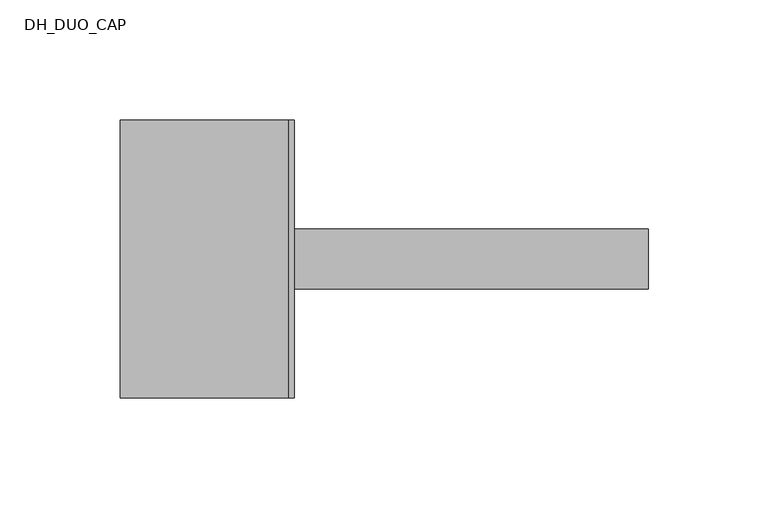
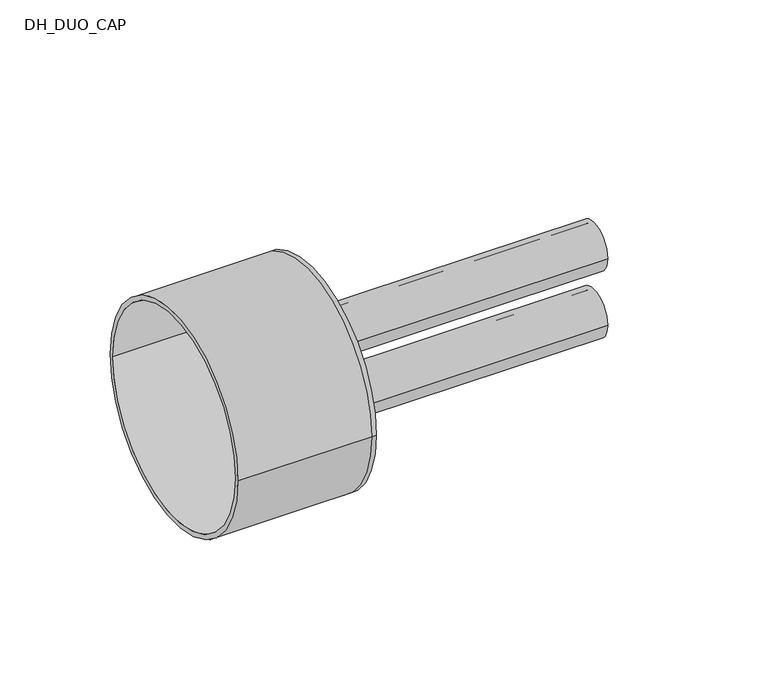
"""IFC4 building model written with IfcOpenShell, lengths in millimetres: pipe fitting geometry, DH_DUO_CAP : RAUTHERMEX DUO + 11 Heating - Solid Cap."""

from ifc_helpers import new_model, si_unit, point, frame, frame_2d, origin, place, context, project, spatial, polyline, circle_curve, trimmed, segment, composite_curve, outline, extrude, source, transform, mapped, element, save
from ifc_brep_helpers import plane_surface, cylinder_surface, revolved_surface, advanced_brep


def dh_duo_cap_ca8780d0(model_context):
    return source(origin(), model_context, "Body", "SolidModel", [
        extrude(outline(composite_curve([segment(trimmed(circle_curve(frame_2d((0.0, -18.5)), 12.5), [point((-12.5, -18.5))], [point((12.5, -18.5))], False, "CARTESIAN"), True, "CONTINUOUS"), segment(trimmed(circle_curve(frame_2d((0.0, -18.5)), 12.5), [point((12.5, -18.5))], [point((-12.5, -18.5))], False, "CARTESIAN"), True, "CONTINUOUS")], self_intersect=False), holes=[composite_curve([segment(trimmed(circle_curve(frame_2d((0.0, -18.5)), 10.2), [point((-10.2, -18.5))], [point((10.2, -18.5))], True, "CARTESIAN"), True, "CONTINUOUS"), segment(trimmed(circle_curve(frame_2d((0.0, -18.5)), 10.2), [point((10.2, -18.5))], [point((-10.2, -18.5))], True, "CARTESIAN"), True, "CONTINUOUS")], self_intersect=False)]), frame((0.0, 0.0, 0.0), z_axis=(1.0, 0.0, 0.0), x_axis=(0.0, 1.0, 0.0)), (0.0, 0.0, 1.0), 150.0),
        extrude(outline(composite_curve([segment(trimmed(circle_curve(frame_2d((0.0, 18.5)), 12.5), [point((-12.5, 18.5))], [point((12.5, 18.5))], False, "CARTESIAN"), True, "CONTINUOUS"), segment(trimmed(circle_curve(frame_2d((0.0, 18.5)), 12.5), [point((12.5, 18.5))], [point((-12.5, 18.5))], False, "CARTESIAN"), True, "CONTINUOUS")], self_intersect=False), holes=[composite_curve([segment(trimmed(circle_curve(frame_2d((0.0, 18.5)), 10.2), [point((-10.2, 18.5))], [point((10.2, 18.5))], True, "CARTESIAN"), True, "CONTINUOUS"), segment(trimmed(circle_curve(frame_2d((0.0, 18.5)), 10.2), [point((10.2, 18.5))], [point((-10.2, 18.5))], True, "CARTESIAN"), True, "CONTINUOUS")], self_intersect=False)]), frame((0.0, 0.0, 0.0), z_axis=(1.0, 0.0, 0.0), x_axis=(0.0, 1.0, 0.0)), (0.0, 0.0, 1.0), 150.0),
        advanced_brep(
        [(-70.0, -58.0, 0.0), (-70.0, 58.0, 0.0), (-70.0, -55.5, 0.0), (-70.0, 55.5, 0.0), (0.0, -55.5, 0.0), (0.0, 55.5, 0.0), (0.0, -58.0, 0.0), (0.0, 58.0, 0.0), (0.0, 12.5, 18.5), (0.0, -12.5, 18.5), (0.0, 12.5, -18.5), (0.0, -12.5, -18.5), (2.5, -58.0, 0.0), (2.5, 58.0, 0.0), (2.5, -12.5, 18.5), (2.5, 12.5, 18.5), (2.5, -12.5, -18.5), (2.5, 12.5, -18.5)],
        [
            (0, 1, circle_curve(frame((-70.0, 0.0, 0.0), z_axis=(-1.0, 0.0, 0.0), x_axis=(0.0, 1.0, 0.0)), 58.0)),
            (1, 0, circle_curve(frame((-70.0, 0.0, 0.0), z_axis=(-1.0, 0.0, 0.0), x_axis=(0.0, 1.0, 0.0)), 58.0)),
            (2, 3, circle_curve(frame((-70.0, 0.0, 0.0), z_axis=(1.0, 0.0, 0.0), x_axis=(0.0, 1.0, 0.0)), 55.5)),
            (3, 2, circle_curve(frame((-70.0, 0.0, 0.0), z_axis=(1.0, 0.0, 0.0), x_axis=(0.0, 1.0, 0.0)), 55.5)),
            (2, 4),
            (4, 5, circle_curve(frame((0.0, 0.0, 0.0), z_axis=(1.0, 0.0, 0.0), x_axis=(0.0, 1.0, 0.0)), 55.5)),
            (5, 3),
            (5, 4, circle_curve(frame((0.0, 0.0, 0.0), z_axis=(1.0, 0.0, 0.0), x_axis=(0.0, 1.0, 0.0)), 55.5)),
            (0, 6),
            (6, 7, circle_curve(frame((0.0, 0.0, 0.0), z_axis=(-1.0, 0.0, 0.0), x_axis=(0.0, 1.0, 0.0)), 58.0)),
            (7, 1),
            (7, 6, circle_curve(frame((0.0, 0.0, 0.0), z_axis=(-1.0, 0.0, 0.0), x_axis=(0.0, 1.0, 0.0)), 58.0)),
            (8, 9, circle_curve(frame((0.0, 0.0, 18.5), z_axis=(1.0, 0.0, 0.0), x_axis=(0.0, 1.0, 0.0)), 12.5)),
            (9, 8, circle_curve(frame((0.0, 0.0, 18.5), z_axis=(1.0, 0.0, 0.0), x_axis=(0.0, 1.0, 0.0)), 12.5)),
            (10, 11, circle_curve(frame((0.0, 0.0, -18.5), z_axis=(1.0, 0.0, 0.0), x_axis=(0.0, 1.0, 0.0)), 12.5)),
            (11, 10, circle_curve(frame((0.0, 0.0, -18.5), z_axis=(1.0, 0.0, 0.0), x_axis=(0.0, 1.0, 0.0)), 12.5)),
            (12, 13, circle_curve(frame((2.5, 0.0, 0.0), z_axis=(1.0, 0.0, 0.0), x_axis=(0.0, 1.0, 0.0)), 58.0)),
            (13, 12, circle_curve(frame((2.5, 0.0, 0.0), z_axis=(1.0, 0.0, 0.0), x_axis=(0.0, 1.0, 0.0)), 58.0)),
            (14, 15, circle_curve(frame((2.5, 0.0, 18.5), z_axis=(-1.0, 0.0, 0.0), x_axis=(0.0, 1.0, 0.0)), 12.5)),
            (15, 14, circle_curve(frame((2.5, 0.0, 18.5), z_axis=(-1.0, 0.0, 0.0), x_axis=(0.0, 1.0, 0.0)), 12.5)),
            (16, 17, circle_curve(frame((2.5, 0.0, -18.5), z_axis=(-1.0, 0.0, 0.0), x_axis=(0.0, 1.0, 0.0)), 12.5)),
            (17, 16, circle_curve(frame((2.5, 0.0, -18.5), z_axis=(-1.0, 0.0, 0.0), x_axis=(0.0, 1.0, 0.0)), 12.5)),
            (13, 7),
            (6, 12),
            (8, 15),
            (14, 9),
            (10, 17),
            (16, 11),
        ],
        [
            plane_surface(frame((-70.0, 0.0, 0.0), z_axis=(-1.0, 0.0, 0.0), x_axis=(0.0, 0.0, 1.0))),
            revolved_surface(polyline([(0.0, 55.5, 0.0), (-70.0, 55.5, 0.0)]), (-70.0, 0.0, 0.0), (1.0, 0.0, 0.0)),
            cylinder_surface(frame((-70.0, 0.0, 0.0), z_axis=(-1.0, 0.0, 0.0), x_axis=(0.0, 1.0, 0.0)), 58.0),
            plane_surface(frame((0.0, 0.0, 0.0), z_axis=(-1.0, 0.0, 0.0), x_axis=(0.0, 0.0, 1.0))),
            plane_surface(frame((2.5, 0.0, 0.0), z_axis=(1.0, 0.0, 0.0), x_axis=(0.0, 0.0, 1.0))),
            cylinder_surface(frame((0.0, 0.0, 0.0), z_axis=(-1.0, 0.0, 0.0), x_axis=(0.0, 1.0, 0.0)), 58.0),
            revolved_surface(polyline([(0.0, 12.5, 18.5), (2.5, 12.5, 18.5)]), (0.0, 0.0, 18.5), (-1.0, 0.0, 0.0)),
            revolved_surface(polyline([(0.0, 12.5, -18.5), (2.5, 12.5, -18.5)]), (0.0, 0.0, -18.5), (-1.0, 0.0, 0.0)),
        ],
        [
            (0, [[1, 2], [3, 4]]),
            (1, [[-3, 5, 6, 7]]),
            (1, [[-4, -7, 8, -5]]),
            (2, [[-1, 9, 10, 11]]),
            (2, [[-2, -11, 12, -9]]),
            (3, [[-6, -8], [13, 14], [15, 16]]),
            (4, [[17, 18], [19, 20], [21, 22]]),
            (5, [[-18, 23, -10, 24]]),
            (5, [[-17, -24, -12, -23]]),
            (6, [[25, -19, 26, -13]]),
            (6, [[-25, -14, -26, -20]]),
            (7, [[27, -21, 28, -15]]),
            (7, [[-27, -16, -28, -22]]),
        ],
    ),
    ])


if __name__ == "__main__":
    model = new_model("IFC4")
    model_context = context("Model", 3, world=origin())
    ifc_project = project(units=[si_unit("LENGTHUNIT", "METRE", prefix="MILLI")], contexts=[model_context])
    site = spatial("IfcSite", under=ifc_project)
    building = spatial("IfcBuilding", under=site)
    placement = place(None, origin())
    dh_duo_cap_shape = dh_duo_cap_ca8780d0(model_context)
    element("IfcPipeFitting", 1, ObjectType="DH_DUO_CAP : RAUTHERMEX DUO + 11 Heating - Solid Cap", at=placement, inside=building, context=model_context, shape_type="MappedRepresentation", body=[
        mapped(dh_duo_cap_shape, transform((0.0, 0.0, 0.0), x_axis=(1.0, 0.0, 0.0), y_axis=(0.0, 1.0, 0.0), z_axis=(0.0, 0.0, 1.0))),
    ])
    save(model, "model.ifc")
